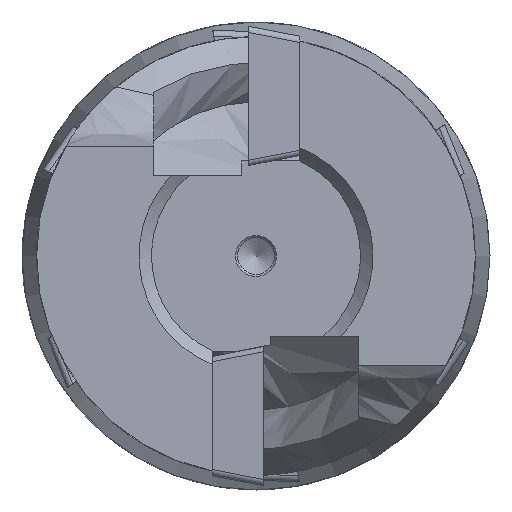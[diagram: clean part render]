
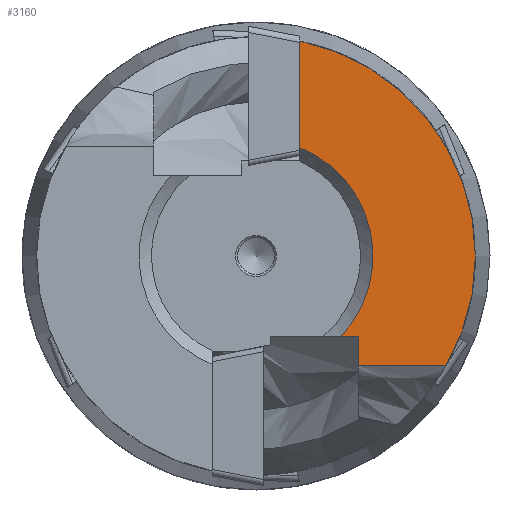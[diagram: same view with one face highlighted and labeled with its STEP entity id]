
A CAD part, front view. The second image highlights one B-rep face of the part: STEP entity #3160.
In plain terms, the highlighted planar face has unit normal (0, -1, 0).
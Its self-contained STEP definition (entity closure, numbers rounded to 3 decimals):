
#161=PLANE('',#3447);
#266=FACE_OUTER_BOUND('',#447,.T.);
#447=EDGE_LOOP('',(#2270,#2271,#2272,#2273,#2274,#2275,#2276));
#783=CIRCLE('',#3408,15.);
#806=CIRCLE('',#3448,15.);
#807=CIRCLE('',#3449,8.);
#939=LINE('',#5503,#1133);
#942=LINE('',#5564,#1136);
#944=LINE('',#5595,#1138);
#945=LINE('',#5598,#1139);
#1133=VECTOR('',#3816,10.);
#1136=VECTOR('',#3821,10.);
#1138=VECTOR('',#3827,10.);
#1139=VECTOR('',#3830,10.);
#1299=VERTEX_POINT('',#4505);
#1301=VERTEX_POINT('',#4508);
#1397=VERTEX_POINT('',#5502);
#1400=VERTEX_POINT('',#5563);
#1403=VERTEX_POINT('',#5592);
#1404=VERTEX_POINT('',#5594);
#1405=VERTEX_POINT('',#5596);
#1628=EDGE_CURVE('',#1301,#1299,#783,.T.);
#1738=EDGE_CURVE('',#1397,#1301,#939,.T.);
#1743=EDGE_CURVE('',#1400,#1397,#942,.T.);
#1747=EDGE_CURVE('',#1299,#1403,#806,.T.);
#1748=EDGE_CURVE('',#1403,#1404,#944,.T.);
#1749=EDGE_CURVE('',#1404,#1405,#807,.T.);
#1750=EDGE_CURVE('',#1405,#1400,#945,.T.);
#2270=ORIENTED_EDGE('',*,*,#1738,.T.);
#2271=ORIENTED_EDGE('',*,*,#1628,.T.);
#2272=ORIENTED_EDGE('',*,*,#1747,.T.);
#2273=ORIENTED_EDGE('',*,*,#1748,.T.);
#2274=ORIENTED_EDGE('',*,*,#1749,.T.);
#2275=ORIENTED_EDGE('',*,*,#1750,.T.);
#2276=ORIENTED_EDGE('',*,*,#1743,.T.);
#3160=ADVANCED_FACE('',(#266),#161,.F.);
#3408=AXIS2_PLACEMENT_3D('',#4509,#3713,#3714);
#3447=AXIS2_PLACEMENT_3D('',#5591,#3823,#3824);
#3448=AXIS2_PLACEMENT_3D('',#5593,#3825,#3826);
#3449=AXIS2_PLACEMENT_3D('',#5597,#3828,#3829);
#3713=DIRECTION('center_axis',(0.,-1.,0.));
#3714=DIRECTION('ref_axis',(-1.,0.,0.));
#3816=DIRECTION('',(1.,0.,0.));
#3821=DIRECTION('',(0.,0.,-1.));
#3823=DIRECTION('center_axis',(0.,1.,0.));
#3824=DIRECTION('ref_axis',(0.,0.,1.));
#3825=DIRECTION('center_axis',(0.,-1.,0.));
#3826=DIRECTION('ref_axis',(-1.,0.,0.));
#3827=DIRECTION('',(0.,0.,-1.));
#3828=DIRECTION('center_axis',(0.,1.,0.));
#3829=DIRECTION('ref_axis',(1.,0.,0.));
#3830=DIRECTION('',(1.,0.,0.));
#4505=CARTESIAN_POINT('',(15.,-75.,0.));
#4508=CARTESIAN_POINT('',(12.99,-75.,-7.5));
#4509=CARTESIAN_POINT('Origin',(0.,-75.,0.));
#5502=CARTESIAN_POINT('',(7.,-75.,-7.5));
#5503=CARTESIAN_POINT('',(3.5,-75.,-7.5));
#5563=CARTESIAN_POINT('',(7.,-75.,-5.5));
#5564=CARTESIAN_POINT('',(7.,-75.,-2.75));
#5591=CARTESIAN_POINT('Origin',(0.,-75.,0.));
#5592=CARTESIAN_POINT('',(3.,-75.,14.697));
#5593=CARTESIAN_POINT('Origin',(0.,-75.,0.));
#5594=CARTESIAN_POINT('',(3.,-75.,7.416));
#5595=CARTESIAN_POINT('',(3.,-75.,7.5));
#5596=CARTESIAN_POINT('',(5.809,-75.,-5.5));
#5597=CARTESIAN_POINT('Origin',(0.,-75.,0.));
#5598=CARTESIAN_POINT('',(0.5,-75.,-5.5));
